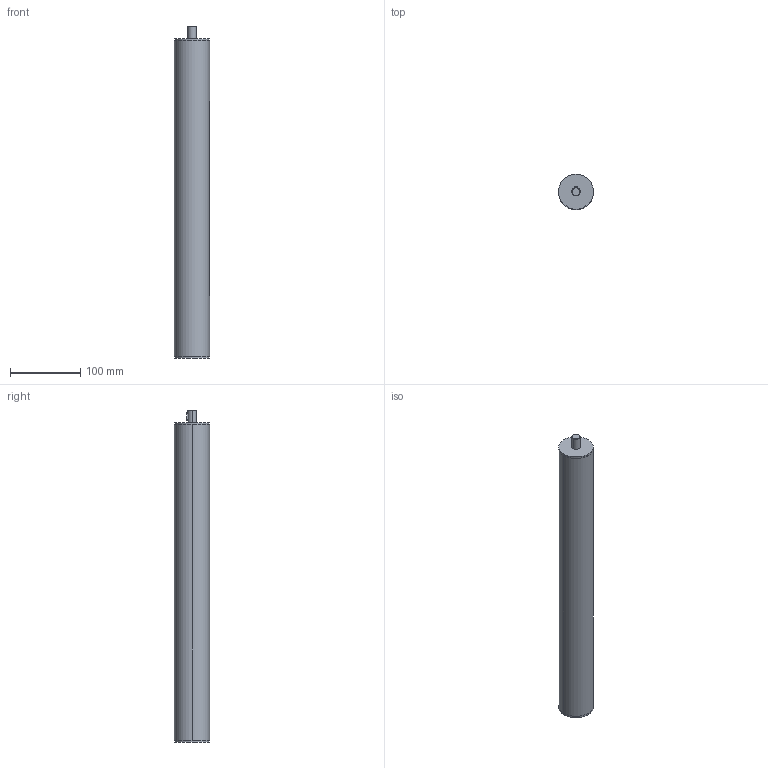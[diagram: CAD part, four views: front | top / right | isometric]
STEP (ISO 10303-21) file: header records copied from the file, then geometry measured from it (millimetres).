
FILE_DESCRIPTION (( 'STEP AP214' ), '1' );
FILE_NAME ('291-50-215-L1-SCR.step', '2023-08-30T05:21:24', ( '' ), ( '' ), 'SwSTEP 2.0', 'SolidWorks 2022', '' );
FILE_SCHEMA (( 'AUTOMOTIVE_DESIGN' ));
Length unit declared in the file: millimetre
Products named in the file (3): WB2910 Rund^WBVES_50-215-1; 291-50-215-L1-SCR; WB2910 mutter^WBVES_Tr20-M6
Assembly tree (2 placements, depth 2):
  291-50-215-L1-SCR
    WB2910 mutter^WBVES_Tr20-M6
    WB2910 Rund^WBVES_50-215-1
Bounding box: 50 x 50 x 473 mm (x, y, z)
Volume: 350485.3 mm3; surface area: 182796.4 mm2
Topology: 2 solids, 2 shells, 48 faces, 112 edges, 70 vertices
Faces by surface type: cylinder 25, plane 17, cone 6
Entity records: 1847 total; most frequent: CARTESIAN_POINT 426, DIRECTION 246, ORIENTED_EDGE 216, EDGE_CURVE 108, AXIS2_PLACEMENT_3D 96, VERTEX_POINT 70, EDGE_LOOP 58, LINE 54
